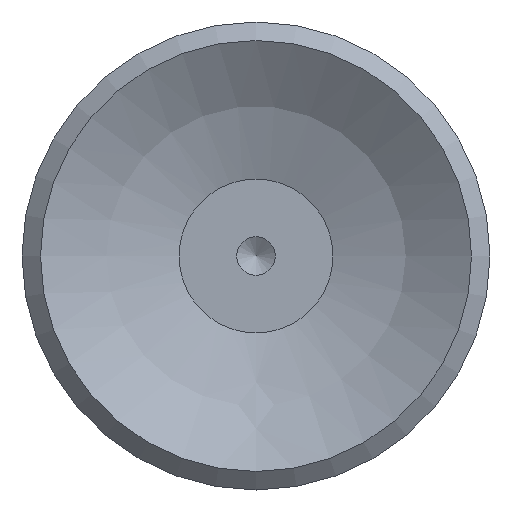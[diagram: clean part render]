
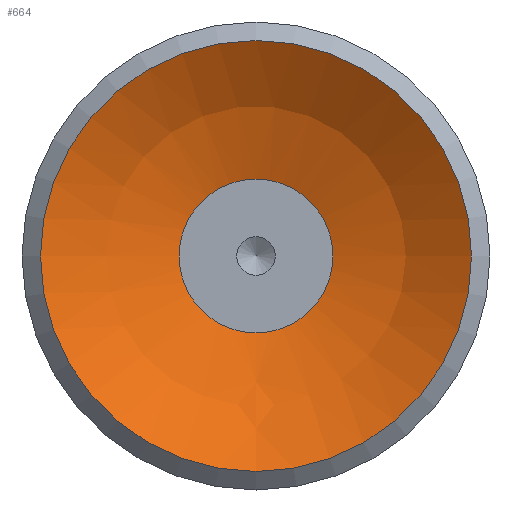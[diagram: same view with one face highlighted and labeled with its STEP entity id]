
A CAD part, front view. The second image highlights one B-rep face of the part: STEP entity #664.
In plain terms, the highlighted spherical face has radius 11.5 mm.
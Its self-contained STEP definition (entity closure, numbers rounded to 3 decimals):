
#664=ADVANCED_FACE('',(#1095,#1096),#1097,.F.);
#1095=FACE_OUTER_BOUND('',#1636,.T.);
#1096=FACE_OUTER_BOUND('',#1637,.T.);
#1097=SPHERICAL_SURFACE('',#1638,11.5);
#1636=EDGE_LOOP('',(#2883));
#1637=EDGE_LOOP('',(#2884));
#1638=AXIS2_PLACEMENT_3D('',#2885,#2886,#2887);
#2883=ORIENTED_EDGE('',*,*,#3730,.T.);
#2884=ORIENTED_EDGE('',*,*,#3731,.F.);
#2885=CARTESIAN_POINT('',(0.001,9.494,-22.735));
#2886=DIRECTION('',(0.0,0.,-1.0));
#2887=DIRECTION('',(1.0,0.0,0.0));
#3730=EDGE_CURVE('',#4431,#4431,#4432,.T.);
#3731=EDGE_CURVE('',#4433,#4433,#4434,.T.);
#4431=VERTEX_POINT('',#6248);
#4432=CIRCLE('',#6249,7.0);
#4433=VERTEX_POINT('',#6250);
#4434=CIRCLE('',#6251,2.5);
#6248=CARTESIAN_POINT('',(0.001,16.494,-13.611));
#6249=AXIS2_PLACEMENT_3D('',#6973,#6974,#6975);
#6250=CARTESIAN_POINT('',(0.001,11.994,-11.51));
#6251=AXIS2_PLACEMENT_3D('',#6976,#6977,#6978);
#6973=CARTESIAN_POINT('',(0.001,9.494,-13.611));
#6974=DIRECTION('',(0.0,0.,-1.0));
#6975=DIRECTION('',(0.0,1.0,0.));
#6976=CARTESIAN_POINT('',(0.001,9.494,-11.51));
#6977=DIRECTION('',(0.0,0.,-1.0));
#6978=DIRECTION('',(0.0,1.0,0.));
